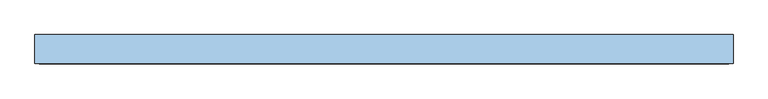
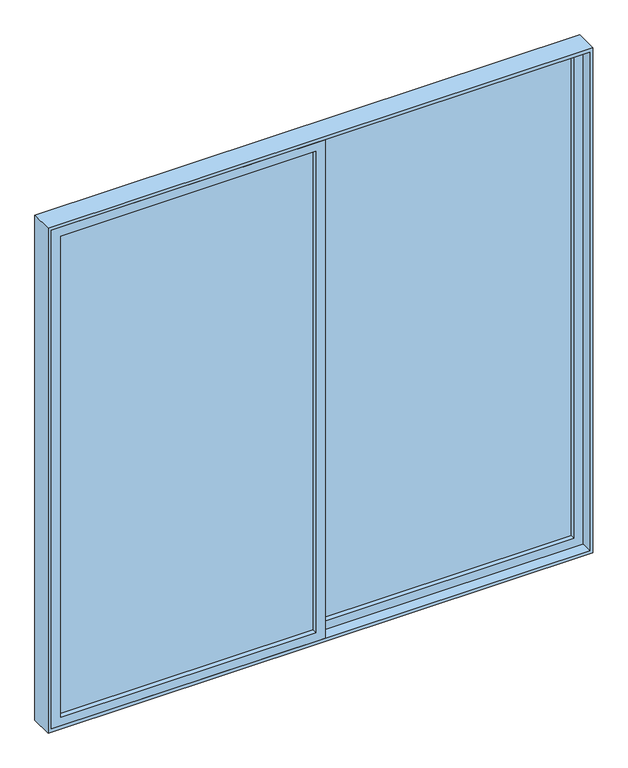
"""IFC4 building model written with IfcOpenShell, lengths in millimetres: window geometry, VENT_ALUM_CORR_2HOJAS_CORRE 1 : V3-VENT_ALUM_CORR_2HOJAS_CORRE 2 - SALIDA SALA PB 2."""

from ifc_helpers import new_model, si_unit, frame, origin, place, context, project, spatial, polyline, outline, extrude, source, transform, mapped, element, save


def window_46afee40(model_context):
    return source(origin(), model_context, "Body", "SweptSolid", [
        extrude(outline(polyline([(-20.0, -28.0), (-1145.0, -28.0), (-1145.0, -22.0), (-20.0, -22.0), (-20.0, -28.0)])), frame((0.0, 0.0, 55.0), z_axis=(0.0, 0.0, 1.0), x_axis=(1.0, 0.0, 0.0)), (0.0, 0.0, 1.0), 2240.0),
        extrude(outline(polyline([(15.0, -1185.0), (15.0, 20.0), (2335.0, 20.0), (2335.0, -1185.0), (15.0, -1185.0)]), holes=[polyline([(2295.0, -1145.0), (2295.0, -20.0), (55.0, -20.0), (55.0, -1145.0), (2295.0, -1145.0)])]), frame((0.0, -50.0, 0.0), z_axis=(0.0, 1.0, 0.0), x_axis=(0.0, 0.0, 1.0)), (0.0, 0.0, 1.0), 50.0),
        extrude(outline(polyline([(20.0, 28.0), (1145.0, 28.0), (1145.0, 22.0), (20.0, 22.0), (20.0, 28.0)])), frame((0.0, 0.0, 55.0), z_axis=(0.0, 0.0, 1.0), x_axis=(1.0, 0.0, 0.0)), (0.0, 0.0, 1.0), 2240.0),
        extrude(outline(polyline([(15.0, -20.0), (15.0, 1185.0), (2335.0, 1185.0), (2335.0, -20.0), (15.0, -20.0)]), holes=[polyline([(2295.0, 20.0), (2295.0, 1145.0), (55.0, 1145.0), (55.0, 20.0), (2295.0, 20.0)])]), frame((0.0, 0.0, 0.0), z_axis=(0.0, 1.0, 0.0), x_axis=(0.0, 0.0, 1.0)), (0.0, 0.0, 1.0), 50.0),
        extrude(outline(polyline([(0.0, -1200.0), (0.0, 1200.0), (2350.0, 1200.0), (2350.0, -1200.0), (0.0, -1200.0)]), holes=[polyline([(2335.0, -1185.0), (2335.0, 1185.0), (15.0, 1185.0), (15.0, -1185.0), (2335.0, -1185.0)])]), frame((0.0, -50.0, 0.0), z_axis=(0.0, 1.0, 0.0), x_axis=(0.0, 0.0, 1.0)), (0.0, 0.0, 1.0), 100.0),
    ])


if __name__ == "__main__":
    model = new_model("IFC4")
    model_context = context("Model", 3, world=origin())
    ifc_project = project(units=[si_unit("LENGTHUNIT", "METRE", prefix="MILLI")], contexts=[model_context])
    site = spatial("IfcSite", under=ifc_project)
    building = spatial("IfcBuilding", under=site)
    placement = place(None, origin())
    window_shape = window_46afee40(model_context)
    element("IfcWindow", 1, ObjectType="VENT_ALUM_CORR_2HOJAS_CORRE 1 : V3-VENT_ALUM_CORR_2HOJAS_CORRE 2 - SALIDA SALA PB 2", at=placement, inside=building, context=model_context, shape_type="MappedRepresentation", body=[
        mapped(window_shape, transform((0.0, 0.0, 0.0), x_axis=(1.0, 0.0, 0.0), y_axis=(0.0, 1.0, 0.0), z_axis=(0.0, 0.0, 1.0))),
    ])
    save(model, "model.ifc")
